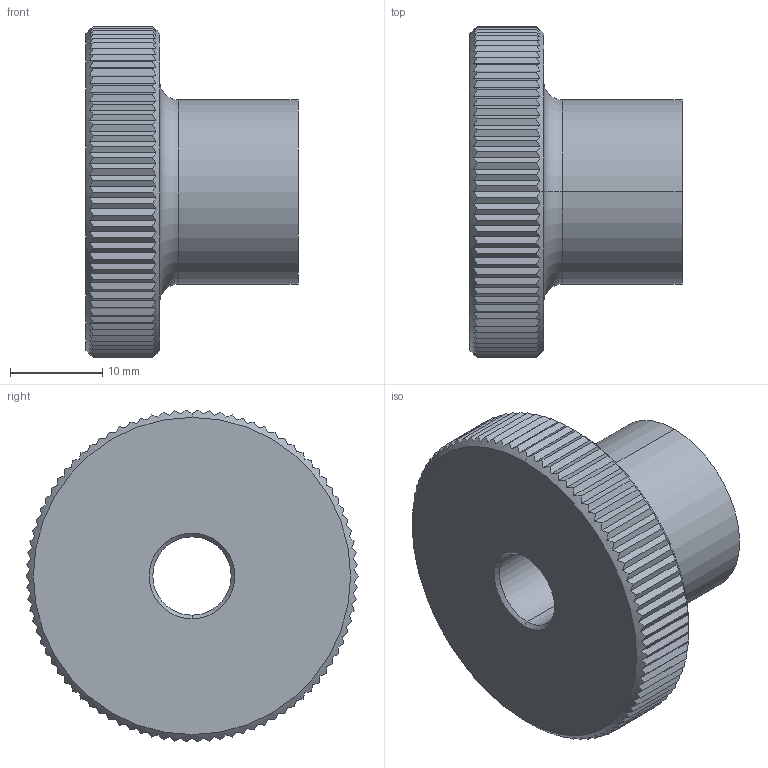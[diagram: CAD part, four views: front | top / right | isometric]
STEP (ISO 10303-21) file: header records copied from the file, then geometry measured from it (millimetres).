
FILE_DESCRIPTION (( 'STEP AP203' ), '1' );
FILE_NAME ('37100.W0010.step', '2015-11-25T13:25:09', ( 'User' ), ( '' ), 'SwSTEP 2.0', 'SolidWorks 2009', '' );
FILE_SCHEMA (( 'CONFIG_CONTROL_DESIGN' ));
Length unit declared in the file: millimetre
Products named in the file (1): 37100.W0010
Bounding box: 23 x 36 x 35.98 mm (x, y, z)
Volume: 11382.9 mm3; surface area: 4321.8 mm2
Topology: 1 solids, 1 shells, 197 faces, 572 edges, 378 vertices
Faces by surface type: plane 183, cone 8, cylinder 4, torus 2
Entity records: 6807 total; most frequent: CARTESIAN_POINT 2228, ORIENTED_EDGE 1144, DIRECTION 628, EDGE_CURVE 572, VERTEX_POINT 378, B_SPLINE_CURVE_WITH_KNOTS 360, AXIS2_PLACEMENT_3D 218, EDGE_LOOP 200
